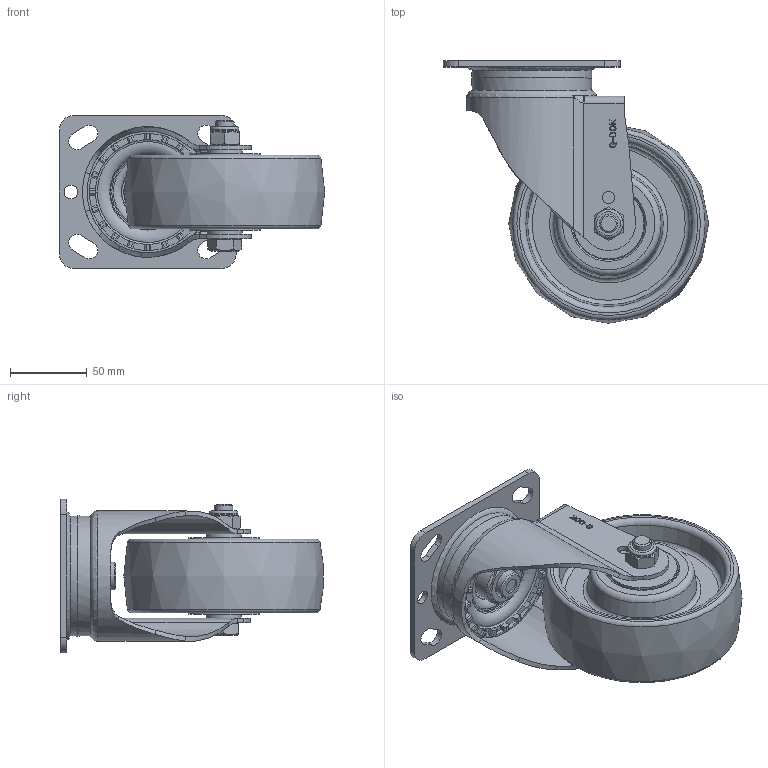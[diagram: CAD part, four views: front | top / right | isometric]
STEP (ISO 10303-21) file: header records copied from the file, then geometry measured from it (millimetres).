
FILE_DESCRIPTION(/* description */ (''),/* implementation_level */ '2;1');
FILE_NAME(/* name */ '\\192.168.10.38\지덕공유\1.기술연구소\2.연구개발 진행중\124.SPH-Series_중하중_2025.02.11\1.도면\2. 3D\홈페이지용\SPH-130-ASF-NYD.stp',/* time_stamp */ '2026-05-19T07:40:06+09:00',/* author */ ('admin'),/* organization */ ('지덕산업'),/* preprocessor_version */ 'ST-DEVELOPER v18.1',/* originating_system */ 'Autodesk Inventor 2021',/* authorisation */ '');
FILE_SCHEMA (('AUTOMOTIVE_DESIGN { 1 0 10303 214 3 1 1 }'));
Length unit declared in the file: millimetre
Products named in the file (1): SPH-130-ASF-NYD
Bounding box: 172.5 x 170.74 x 100 mm (x, y, z)
Volume: 650481 mm3; surface area: 124523.6 mm2
Topology: 1 solids, 1 shells, 1209 faces, 3261 edges, 2144 vertices
Faces by surface type: plane 552, bspline 450, cylinder 142, cone 35, torus 30
Full cylindrical faces by diameter (mm): 8 x2, 9 x2, 10 x1, 12 x1, 18 x2, 18.5 x1, 31 x1, 31.177 x1, 46.001 x2
Entity records: 40722 total; most frequent: CARTESIAN_POINT 13314, ORIENTED_EDGE 6518, DIRECTION 4151, EDGE_CURVE 3259, VERTEX_POINT 2144, LINE 1875, VECTOR 1875, EDGE_LOOP 1319
